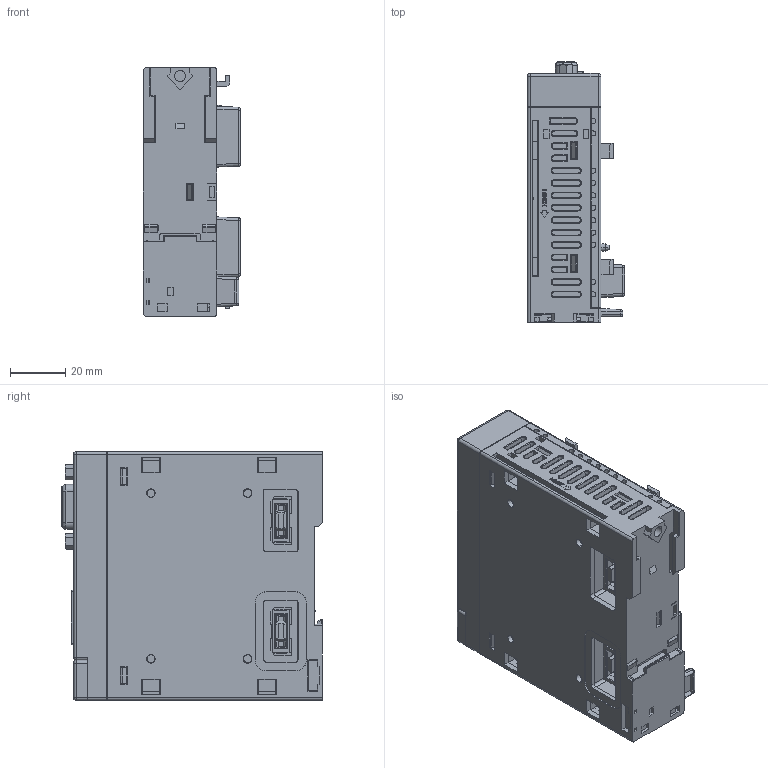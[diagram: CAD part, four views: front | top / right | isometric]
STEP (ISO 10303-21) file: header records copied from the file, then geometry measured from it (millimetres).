
FILE_DESCRIPTION((''),'2;1');
FILE_NAME('XCPU-CM25_ASM','2022-09-18T22:54:47',('Jacky Chang'),(''),'CREO PARAMETRIC BY PTC INC, 2021284','CREO PARAMETRIC BY PTC INC, 2021284','');
FILE_SCHEMA(('CONFIG_CONTROL_DESIGN','SHAPE_APPEARANCE_LAYERS_GROUPS'));
Products named in the file (2): XCPU-CM25-UP-COVER; XCPU-CM25_ASM
Assembly tree (1 placements, depth 2):
  XCPU-CM25_ASM
    XCPU-CM25-UP-COVER
Bounding box: 35.2 x 94.3 x 90.3 mm (x, y, z)
Volume: 201007.1 mm3; surface area: 47311.1 mm2
Topology: 2 solids, 12 shells, 2768 faces, 7372 edges, 4663 vertices
Faces by surface type: plane 1776, cylinder 590, cone 115, torus 98, extrusion 89, bspline 54, sphere 46
Entity records: 119498 total; most frequent: CARTESIAN_POINT 22591, ORIENTED_EDGE 14684, DIRECTION 13071, PRESENTATION_STYLE_ASSIGNMENT 8335, STYLED_ITEM 7373, CURVE_STYLE 7371, EDGE_CURVE 7342, VECTOR 5671
